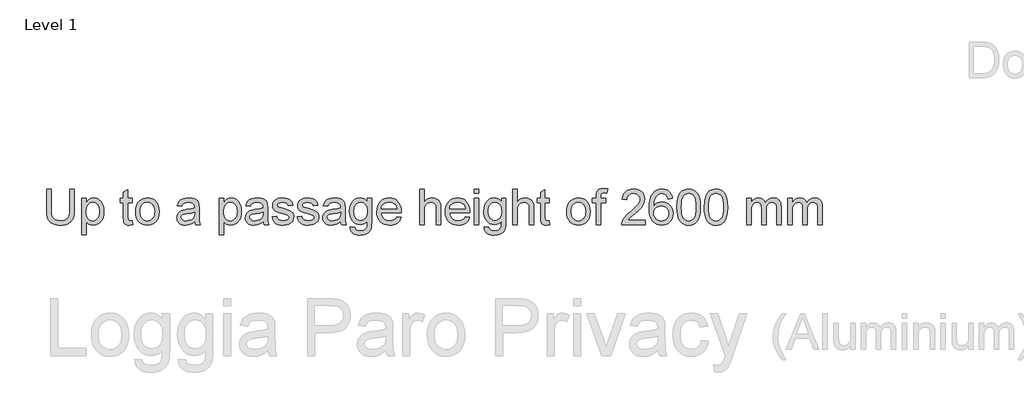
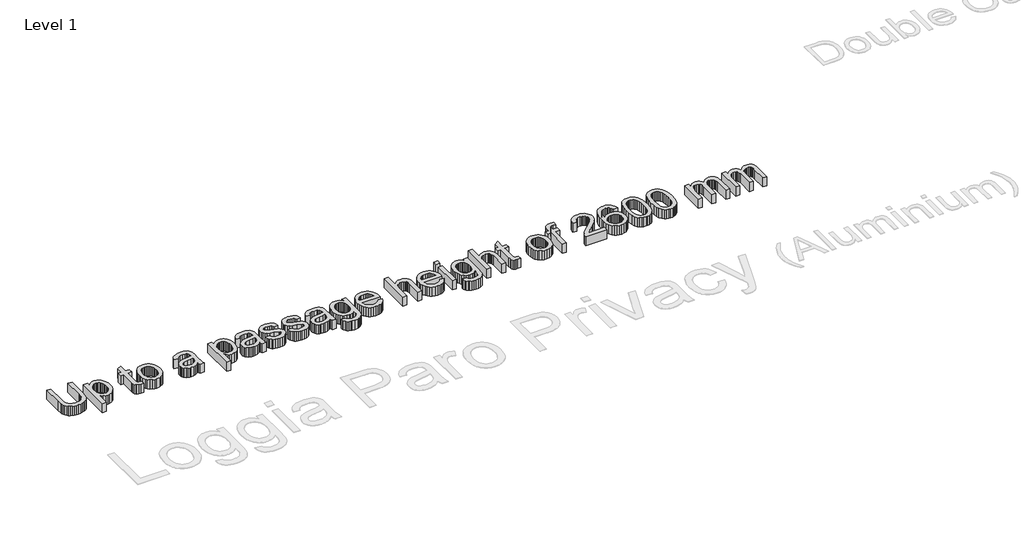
# One storey, part 12 of 47: 1 proxy.
"""IFC4 building model written with IfcOpenShell, lengths in millimetres."""

from ifc_helpers import new_model, si_unit, origin, origin_with_axes, place, context, project, spatial, polyline, outline, extrude, element, save

model = new_model("IFC4")

# Units and contexts
model_context = context("Model", 3, world=origin())
ifc_project = project(units=[si_unit("LENGTHUNIT", "METRE", prefix="MILLI")], contexts=[model_context])

# Site, building, storey
site = spatial("IfcSite", under=ifc_project)
building = spatial("IfcBuilding", under=site)
storey = spatial("IfcBuildingStorey", under=building, Name="Level 1", Elevation=0.0)

# Proxy
placement = place(None, origin())
element("IfcBuildingElementProxy", 1, Name="500mm Arial", ObjectType="500mm Arial", at=placement, inside=storey, context=model_context, shape_type="SweptSolid", body=[
    extrude(outline(polyline([(173203.9255584, -27556.4083813), (173266.7107522, -27556.4083813), (173266.7107522, -27846.1767662), (173262.4494525, -27914.0356658), (173249.6655531, -27966.2902376), (173239.4338351, -27987.4817733), (173225.7838803, -28006.6039729), (173208.7156886, -28023.6568362), (173188.2292599, -28038.6403633), (173164.3016018, -28050.8456149), (173136.9097216, -28059.5636518), (173106.0536193, -28064.7944739), (173071.7332948, -28066.5380813), (173038.2598653, -28065.020568), (173007.9824107, -28060.4680283), (172980.9009309, -28052.8804622), (172957.015426, -28042.2578696), (172936.3220637, -28028.7573668), (172918.8170121, -28012.5360701), (172904.5002712, -27993.5939794), (172893.3718408, -27971.9310948), (172885.0293501, -27946.8039881), (172879.0704282, -27917.4692311), (172874.3032907, -27846.1767662), (172874.3032907, -27556.4083813), (172937.0884846, -27556.4083813), (172937.0884846, -27843.9694742), (172940.1848247, -27900.3933752), (172949.4738451, -27939.6801066), (172966.3044464, -27966.8880458), (172992.0255292, -27987.0755703), (173025.5641044, -27999.5835581), (173065.8471829, -28003.7528874), (173100.4510831, -28001.6912154), (173129.7053659, -27995.5061994), (173153.6100314, -27985.1978393), (173172.1650795, -27970.7661352), (173186.060289, -27950.4713118), (173195.9854387, -27922.5735938), (173201.9405285, -27887.0729813), (173203.9255584, -27843.9694742), (173203.9255584, -27556.4083813)])), origin_with_axes(), (0.0, 0.0, 1.0), 150.0),
    extrude(outline(polyline([(173368.7366922, -28199.9566182), (173368.7366922, -27689.8269182), (173431.5218861, -27689.8269182), (173431.5218861, -27751.3858387), (173452.0006505, -27721.0202457), (173474.9319615, -27699.3305364), (173501.6647198, -27686.3167108), (173533.5478261, -27681.978769), (173555.444469, -27683.4962822), (173576.0075397, -27688.0488219), (173595.2370381, -27695.636388), (173613.1329644, -27706.2589807), (173629.3044437, -27719.6406882), (173643.3606016, -27735.5055993), (173665.126953, -27774.6850318), (173678.2787344, -27820.9461926), (173682.6626615, -27871.4379965), (173677.7115829, -27925.1334394), (173662.8583474, -27973.1573682), (173651.8372159, -27994.4332102), (173638.5781357, -28013.0725646), (173623.0811067, -28029.0754314), (173605.3461288, -28042.4418106), (173566.6418772, -28060.5140136), (173525.9449315, -28066.5380813), (173497.0815233, -28062.5067077), (173471.3144552, -28050.4125871), (173449.2568639, -28032.1564431), (173431.5218861, -28009.6389993), (173431.5218861, -28199.9566182), (173368.7366922, -28199.9566182)]), holes=[polyline([(173431.5218861, -27877.2014811), (173433.2195082, -27907.4597752), (173438.3123746, -27933.4874263), (173446.8004852, -27955.2844346), (173458.6838401, -27972.8507998), (173472.9890847, -27986.3704631), (173488.7428648, -27996.0273655), (173505.9451801, -28001.8215069), (173524.5960309, -28003.7528874), (173543.5151289, -28001.7525291), (173561.0316768, -27995.751454), (173577.1456746, -27985.7496623), (173591.8571223, -27971.7471538), (173604.1160234, -27953.5446593), (173612.8723813, -27930.9429092), (173618.126196, -27903.9419036), (173619.8774676, -27872.5416425), (173618.1683492, -27842.5439314), (173613.0409939, -27816.5622655), (173604.4954017, -27794.5966447), (173592.5315726, -27776.6470691), (173578.191839, -27762.6982101), (173562.5185332, -27752.7347394), (173545.5116551, -27746.756657), (173527.1712048, -27744.7639628), (173508.8882361, -27746.8831164), (173491.6859207, -27753.2405771), (173475.5642587, -27763.836345), (173460.52325, -27778.67042), (173447.8351533, -27797.5435328), (173438.7722271, -27820.2564139), (173433.3344713, -27846.8090633), (173431.5218861, -27877.2014811)])]), origin_with_axes(), (0.0, 0.0, 1.0), 150.0),
    extrude(outline(polyline([(174082.9182722, -28006.3280614), (174090.7664214, -28060.529342), (174043.8001534, -28066.5380813), (174013.6644866, -28063.9322505), (173991.1930281, -28056.1147581), (173975.3127886, -28044.0666227), (173964.9507791, -28028.7688631), (173959.2486082, -28002.4959573), (173957.3478845, -27957.5223834), (173957.3478845, -27752.612112), (173910.2589891, -27752.612112), (173910.2589891, -27689.8269182), (173957.3478845, -27689.8269182), (173957.3478845, -27600.1863387), (174020.1330784, -27563.2755119), (174020.1330784, -27689.8269182), (174082.9182722, -27689.8269182), (174082.9182722, -27752.612112), (174020.1330784, -27752.612112), (174020.1330784, -27955.6829734), (174023.4440163, -27988.056589), (174034.1739079, -27999.5222445), (174055.5723772, -28003.7528874), (174082.9182722, -28006.3280614)])), origin_with_axes(), (0.0, 0.0, 1.0), 150.0),
    extrude(outline(polyline([(174130.0071676, -27874.2584251), (174133.4024118, -27826.4874152), (174143.5881446, -27785.3229528), (174160.5643658, -27750.7650379), (174184.3310756, -27722.8136704), (174208.2587337, -27704.948401), (174234.6695952, -27692.1874943), (174263.5636603, -27684.5309503), (174294.9409288, -27681.978769), (174329.5793179, -27685.0866054), (174360.8991048, -27694.4101147), (174388.9002896, -27709.9492969), (174413.5828722, -27731.704152), (174433.7282436, -27758.9389159), (174448.1177945, -27790.9178248), (174456.7515251, -27827.6408785), (174459.6294353, -27869.1080772), (174454.540401, -27932.5370645), (174448.1791082, -27958.5723799), (174439.2732982, -27980.8215764), (174427.9341021, -28000.0395785), (174414.272651, -28016.9813108), (174398.2889447, -28031.6467733), (174379.9829833, -28044.0359659), (174339.2553808, -28060.9125524), (174294.9409288, -28066.5380813), (174259.7967019, -28063.4417411), (174228.1856751, -28054.1527208), (174200.1078482, -28038.6710201), (174175.5632213, -28016.9966392), (174155.6324478, -27989.4974601), (174141.396181, -27956.5413647), (174132.854421, -27918.128353), (174130.0071676, -27874.2584251)]), holes=[polyline([(174192.7923614, -27874.1357978), (174194.6087788, -27904.5895292), (174200.0580308, -27930.9582376), (174209.1401176, -27953.2419231), (174221.8550391, -27971.4405855), (174237.3214113, -27985.5772176), (174254.6578503, -27995.6748119), (174273.8643561, -28001.7333685), (174294.9409288, -28003.7528874), (174315.9102025, -28001.7218722), (174335.0400662, -27995.6288267), (174352.33052, -27985.4737508), (174367.7815638, -27971.2566445), (174380.4964853, -27952.8778732), (174389.578572, -27930.237802), (174395.0278241, -27903.3364312), (174396.8442414, -27872.1737605), (174395.0163278, -27842.6857193), (174389.5325868, -27817.0067896), (174380.3930185, -27795.1369714), (174367.5976228, -27777.0762647), (174352.0890975, -27762.9396326), (174334.81014, -27752.8420383), (174315.7607504, -27746.7834817), (174294.9409288, -27744.7639628), (174273.8643561, -27746.7758175), (174254.6578503, -27752.8113815), (174237.3214113, -27762.8706548), (174221.8550391, -27776.9536374), (174209.1401176, -27795.0986504), (174200.0580308, -27817.3440148), (174194.6087788, -27843.6897306), (174192.7923614, -27874.1357978)])]), origin_with_axes(), (0.0, 0.0, 1.0), 150.0),
    extrude(outline(polyline([(174961.910986, -28011.6010366), (174931.913275, -28037.3221195), (174901.0265158, -28054.1527208), (174868.5456013, -28063.4417411), (174833.7654244, -28066.5380813), (174805.8102248, -28064.6756787), (174781.2962548, -28059.0884709), (174760.2235143, -28049.7764579), (174742.5920032, -28036.7396397), (174728.669969, -28020.8057507), (174718.7256588, -28002.8025256), (174712.7590727, -27982.7299642), (174710.7702106, -27960.5880667), (174713.7745803, -27934.5604155), (174722.7876892, -27910.9239973), (174736.6905629, -27890.6904876), (174754.3642271, -27874.8715618), (174775.1342314, -27862.9153969), (174798.3261255, -27854.27017), (174852.6500335, -27844.8278655), (174916.8454416, -27834.8950516), (174961.543104, -27823.2454551), (174961.910986, -27809.2659393), (174957.5883726, -27781.245594), (174944.6205323, -27762.9128079), (174931.545393, -27754.9726882), (174915.6191683, -27749.3011741), (174875.2134625, -27744.7639628), (174837.8121263, -27747.7836609), (174811.6925047, -27756.842755), (174793.8808847, -27773.5967142), (174781.4035537, -27799.7010074), (174718.6183599, -27791.8528582), (174729.516864, -27757.5172053), (174745.7803139, -27730.5391923), (174768.9262227, -27709.9071438), (174800.4721038, -27694.6093841), (174839.0537281, -27685.1364228), (174883.3068664, -27681.978769), (174925.7512516, -27684.7685408), (174959.3971257, -27693.1378562), (174984.765655, -27705.7224861), (175002.3780055, -27721.1582015), (175014.0582588, -27740.24208), (175021.6304966, -27763.7711992), (175024.6961799, -27818.7082438), (175024.6961799, -27896.8218542), (175027.8844905, -28005.8988657), (175032.6056428, -28032.8615503), (175040.3924783, -28058.689932), (174977.6072845, -28058.689932), (174967.5518433, -28036.862267), (174961.910986, -28011.6010366)]), holes=[polyline([(174961.910986, -27886.030649), (174919.7271839, -27896.484629), (174860.62081, -27905.28314), (174806.6034704, -27915.4612086), (174792.5473125, -27922.4203097), (174782.1393177, -27932.0158984), (174775.7013828, -27943.5122107), (174773.5554045, -27956.1734827), (174778.2305715, -27974.843494), (174792.2560726, -27990.1412536), (174815.3253394, -28000.349979), (174847.1318035, -28003.7528874), (174880.8543198, -27999.9974254), (174910.6527614, -27988.7310393), (174934.8103457, -27972.1303642), (174951.6102902, -27952.3720354), (174959.0599006, -27932.0158984), (174961.543104, -27903.8116121), (174961.910986, -27886.030649)])]), origin_with_axes(), (0.0, 0.0, 1.0), 150.0),
    extrude(outline(polyline([(175307.2295522, -28199.9566182), (175307.2295522, -27689.8269182), (175370.014746, -27689.8269182), (175370.014746, -27751.3858387), (175390.4935104, -27721.0202457), (175413.4248214, -27699.3305364), (175440.1575798, -27686.3167108), (175472.040686, -27681.978769), (175493.9373289, -27683.4962822), (175514.5003996, -27688.0488219), (175533.7298981, -27695.636388), (175551.6258243, -27706.2589807), (175567.7973037, -27719.6406882), (175581.8534616, -27735.5055993), (175603.6198129, -27774.6850318), (175616.7715943, -27820.9461926), (175621.1555214, -27871.4379965), (175616.2044429, -27925.1334394), (175601.3512073, -27973.1573682), (175590.3300759, -27994.4332102), (175577.0709956, -28013.0725646), (175561.5739666, -28029.0754314), (175543.8389887, -28042.4418106), (175505.1347372, -28060.5140136), (175464.4377914, -28066.5380813), (175435.5743832, -28062.5067077), (175409.8073152, -28050.4125871), (175387.7497239, -28032.1564431), (175370.014746, -28009.6389993), (175370.014746, -28199.9566182), (175307.2295522, -28199.9566182)]), holes=[polyline([(175370.014746, -27877.2014811), (175371.7123681, -27907.4597752), (175376.8052345, -27933.4874263), (175385.2933451, -27955.2844346), (175397.1767, -27972.8507998), (175411.4819446, -27986.3704631), (175427.2357247, -27996.0273655), (175444.4380401, -28001.8215069), (175463.0888908, -28003.7528874), (175482.0079888, -28001.7525291), (175499.5245367, -27995.751454), (175515.6385345, -27985.7496623), (175530.3499822, -27971.7471538), (175542.6088833, -27953.5446593), (175551.3652412, -27930.9429092), (175556.619056, -27903.9419036), (175558.3703275, -27872.5416425), (175556.6612091, -27842.5439314), (175551.5338538, -27816.5622655), (175542.9882616, -27794.5966447), (175531.0244326, -27776.6470691), (175516.684699, -27762.6982101), (175501.0113931, -27752.7347394), (175484.0045151, -27746.756657), (175465.6640648, -27744.7639628), (175447.381096, -27746.8831164), (175430.1787806, -27753.2405771), (175414.0571186, -27763.836345), (175399.01611, -27778.67042), (175386.3280132, -27797.5435328), (175377.265087, -27820.2564139), (175371.8273313, -27846.8090633), (175370.014746, -27877.2014811)])]), origin_with_axes(), (0.0, 0.0, 1.0), 150.0),
    extrude(outline(polyline([(175927.2333414, -28011.6010366), (175897.2356303, -28037.3221195), (175866.3488712, -28054.1527208), (175833.8679567, -28063.4417411), (175799.0877797, -28066.5380813), (175771.1325802, -28064.6756787), (175746.6186102, -28059.0884709), (175725.5458696, -28049.7764579), (175707.9143586, -28036.7396397), (175693.9923243, -28020.8057507), (175684.0480141, -28002.8025256), (175678.081428, -27982.7299642), (175676.092566, -27960.5880667), (175679.0969356, -27934.5604155), (175688.1100445, -27910.9239973), (175702.0129182, -27890.6904876), (175719.6865824, -27874.8715618), (175740.4565867, -27862.9153969), (175763.6484808, -27854.27017), (175817.9723888, -27844.8278655), (175882.167797, -27834.8950516), (175926.8654594, -27823.2454551), (175927.2333414, -27809.2659393), (175922.9107279, -27781.245594), (175909.9428876, -27762.9128079), (175896.8677483, -27754.9726882), (175880.9415236, -27749.3011741), (175840.5358178, -27744.7639628), (175803.1344817, -27747.7836609), (175777.01486, -27756.842755), (175759.2032401, -27773.5967142), (175746.7259091, -27799.7010074), (175683.9407152, -27791.8528582), (175694.8392193, -27757.5172053), (175711.1026692, -27730.5391923), (175734.2485781, -27709.9071438), (175765.7944592, -27694.6093841), (175804.3760834, -27685.1364228), (175848.6292217, -27681.978769), (175891.0736069, -27684.7685408), (175924.7194811, -27693.1378562), (175950.0880103, -27705.7224861), (175967.7003608, -27721.1582015), (175979.3806142, -27740.24208), (175986.9528519, -27763.7711992), (175990.0185352, -27818.7082438), (175990.0185352, -27896.8218542), (175993.2068458, -28005.8988657), (175997.9279981, -28032.8615503), (176005.7148337, -28058.689932), (175942.9296398, -28058.689932), (175932.8741986, -28036.862267), (175927.2333414, -28011.6010366)]), holes=[polyline([(175927.2333414, -27886.030649), (175885.0495393, -27896.484629), (175825.9431654, -27905.28314), (175771.9258257, -27915.4612086), (175757.8696678, -27922.4203097), (175747.4616731, -27932.0158984), (175741.0237381, -27943.5122107), (175738.8777598, -27956.1734827), (175743.5529269, -27974.843494), (175757.5784279, -27990.1412536), (175780.6476947, -28000.349979), (175812.4541589, -28003.7528874), (175846.1766751, -27999.9974254), (175875.9751167, -27988.7310393), (175900.1327011, -27972.1303642), (175916.9326455, -27952.3720354), (175924.3822559, -27932.0158984), (175926.8654594, -27903.8116121), (175927.2333414, -27886.030649)])]), origin_with_axes(), (0.0, 0.0, 1.0), 150.0),
    extrude(outline(polyline([(176052.8037291, -27948.8158428), (176115.5889229, -27940.9676936), (176125.4910799, -27967.8230792), (176144.6516005, -27987.5660796), (176173.193112, -27999.7061855), (176211.2382416, -28003.7528874), (176248.8235188, -28000.0434106), (176275.2497088, -27988.9149803), (176290.8846936, -27972.7894862), (176296.0963552, -27954.0888181), (176290.8540368, -27938.0859513), (176275.1270815, -27925.8845318), (176210.5024777, -27907.9809413), (176153.2048569, -27891.4109231), (176115.9568049, -27877.2627947), (176092.0291468, -27861.8270794), (176074.6927078, -27841.3943002), (176064.1620857, -27817.2673727), (176060.6518783, -27790.7492122), (176063.4723069, -27766.4230153), (176071.9335928, -27743.9668852), (176085.2693151, -27724.26987), (176102.7130531, -27708.221018), (176120.0494921, -27698.1195915), (176142.6282495, -27689.6429772), (176168.7325428, -27683.894821), (176196.6455892, -27681.978769), (176237.5111475, -27685.0597807), (176273.0424168, -27694.3028158), (176301.6145851, -27708.8034978), (176321.6028402, -27727.65745), (176334.846592, -27752.2595585), (176343.1852506, -27784.004709), (176280.4000567, -27791.8528582), (176272.4752654, -27772.0945294), (176256.7942954, -27757.210637), (176233.2038624, -27747.8756314), (176201.5506824, -27744.7639628), (176165.4982469, -27747.7376756), (176141.4632899, -27756.658814), (176127.9436266, -27769.5346838), (176123.4370721, -27784.372591), (176125.3071389, -27794.0294933), (176130.9173394, -27802.6440634), (176140.5129281, -27810.3389285), (176154.3391597, -27816.5009519), (176208.417813, -27829.867331), (176300.5722528, -27859.420518), (176324.9137782, -27873.553318), (176343.3691916, -27892.8977795), (176355.0034597, -27917.5152164), (176358.881549, -27947.4669422), (176354.3290094, -27978.4303434), (176340.6713903, -28007.5543347), (176318.429858, -28032.554982), (176288.1255786, -28051.1483511), (176251.5213201, -28062.6906487), (176210.3798503, -28066.5380813), (176176.5883562, -28064.6833429), (176147.0734903, -28059.1191277), (176121.8352526, -28049.8454357), (176100.8736431, -28036.862267), (176083.7518019, -28020.2309351), (176070.0328692, -28000.0127538), (176059.7168449, -27976.207723), (176052.8037291, -27948.8158428)])), origin_with_axes(), (0.0, 0.0, 1.0), 150.0),
    extrude(outline(polyline([(176405.9704444, -27948.8158428), (176468.7556383, -27940.9676936), (176478.6577953, -27967.8230792), (176497.8183159, -27987.5660796), (176526.3598273, -27999.7061855), (176564.404957, -28003.7528874), (176601.9902342, -28000.0434106), (176628.4164242, -27988.9149803), (176644.051409, -27972.7894862), (176649.2630706, -27954.0888181), (176644.0207521, -27938.0859513), (176628.2937968, -27925.8845318), (176563.669193, -27907.9809413), (176506.3715723, -27891.4109231), (176469.1235203, -27877.2627947), (176445.1958622, -27861.8270794), (176427.8594231, -27841.3943002), (176417.328801, -27817.2673727), (176413.8185937, -27790.7492122), (176416.6390223, -27766.4230153), (176425.1003082, -27743.9668852), (176438.4360305, -27724.26987), (176455.8797684, -27708.221018), (176473.2162075, -27698.1195915), (176495.7949649, -27689.6429772), (176521.8992582, -27683.894821), (176549.8123045, -27681.978769), (176590.6778628, -27685.0597807), (176626.2091322, -27694.3028158), (176654.7813005, -27708.8034978), (176674.7695556, -27727.65745), (176688.0133074, -27752.2595585), (176696.351966, -27784.004709), (176633.5667721, -27791.8528582), (176625.6419808, -27772.0945294), (176609.9610107, -27757.210637), (176586.3705778, -27747.8756314), (176554.7173978, -27744.7639628), (176518.6649623, -27747.7376756), (176494.6300053, -27756.658814), (176481.1103419, -27769.5346838), (176476.6037875, -27784.372591), (176478.4738543, -27794.0294933), (176484.0840547, -27802.6440634), (176493.6796434, -27810.3389285), (176507.5058751, -27816.5009519), (176561.5845284, -27829.867331), (176653.7389682, -27859.420518), (176678.0804935, -27873.553318), (176696.5359069, -27892.8977795), (176708.170175, -27917.5152164), (176712.0482644, -27947.4669422), (176707.4957247, -27978.4303434), (176693.8381056, -28007.5543347), (176671.5965734, -28032.554982), (176641.292294, -28051.1483511), (176604.6880355, -28062.6906487), (176563.5465657, -28066.5380813), (176529.7550716, -28064.6833429), (176500.2402057, -28059.1191277), (176475.001968, -28049.8454357), (176454.0403585, -28036.862267), (176436.9185173, -28020.2309351), (176423.1995845, -28000.0127538), (176412.8835602, -27976.207723), (176405.9704444, -27948.8158428)])), origin_with_axes(), (0.0, 0.0, 1.0), 150.0),
    extrude(outline(polyline([(177018.1260844, -28011.6010366), (176988.1283734, -28037.3221195), (176957.2416142, -28054.1527208), (176924.7606997, -28063.4417411), (176889.9805227, -28066.5380813), (176862.0253232, -28064.6756787), (176837.5113532, -28059.0884709), (176816.4386126, -28049.7764579), (176798.8071016, -28036.7396397), (176784.8850674, -28020.8057507), (176774.9407572, -28002.8025256), (176768.9741711, -27982.7299642), (176766.985309, -27960.5880667), (176769.9896787, -27934.5604155), (176779.0027875, -27910.9239973), (176792.9056613, -27890.6904876), (176810.5793255, -27874.8715618), (176831.3493298, -27862.9153969), (176854.5412239, -27854.27017), (176908.8651318, -27844.8278655), (176973.06054, -27834.8950516), (177017.7582024, -27823.2454551), (177018.1260844, -27809.2659393), (177013.803471, -27781.245594), (177000.8356306, -27762.9128079), (176987.7604914, -27754.9726882), (176971.8342667, -27749.3011741), (176931.4285609, -27744.7639628), (176894.0272247, -27747.7836609), (176867.907603, -27756.842755), (176850.0959831, -27773.5967142), (176837.6186521, -27799.7010074), (176774.8334583, -27791.8528582), (176785.7319624, -27757.5172053), (176801.9954122, -27730.5391923), (176825.1413211, -27709.9071438), (176856.6872022, -27694.6093841), (176895.2688264, -27685.1364228), (176939.5219648, -27681.978769), (176981.96635, -27684.7685408), (177015.6122241, -27693.1378562), (177040.9807533, -27705.7224861), (177058.5931039, -27721.1582015), (177070.2733572, -27740.24208), (177077.8455949, -27763.7711992), (177080.9112782, -27818.7082438), (177080.9112782, -27896.8218542), (177084.0995889, -28005.8988657), (177088.8207411, -28032.8615503), (177096.6075767, -28058.689932), (177033.8223829, -28058.689932), (177023.7669417, -28036.862267), (177018.1260844, -28011.6010366)]), holes=[polyline([(177018.1260844, -27886.030649), (176975.9422823, -27896.484629), (176916.8359084, -27905.28314), (176862.8185688, -27915.4612086), (176848.7624109, -27922.4203097), (176838.3544161, -27932.0158984), (176831.9164812, -27943.5122107), (176829.7705029, -27956.1734827), (176834.4456699, -27974.843494), (176848.471171, -27990.1412536), (176871.5404377, -28000.349979), (176903.3469019, -28003.7528874), (176937.0694181, -27999.9974254), (176966.8678597, -27988.7310393), (176991.0254441, -27972.1303642), (177007.8253885, -27952.3720354), (177015.2749989, -27932.0158984), (177017.7582024, -27903.8116121), (177018.1260844, -27886.030649)])]), origin_with_axes(), (0.0, 0.0, 1.0), 150.0),
    extrude(outline(polyline([(177151.5446213, -28090.082529), (177214.3298152, -28097.9306782), (177221.2582594, -28117.5510513), (177234.6859522, -28131.0400577), (177261.0814854, -28141.5246946), (177295.6317361, -28145.0195736), (177332.4812493, -28141.0648421), (177359.8884579, -28129.2006478), (177378.8956943, -28110.1934114), (177390.5452908, -28084.8095537), (177393.9481993, -28057.8008839), (177394.8372475, -28011.6010366), (177373.9446158, -28032.2024284), (177350.6300944, -28046.9177082), (177324.8936831, -28055.7468761), (177296.7353821, -28058.689932), (177262.3115908, -28055.264031), (177232.0034793, -28044.9863277), (177205.8110477, -28027.8568223), (177183.7342959, -28003.8755147), (177166.217748, -27975.104077), (177153.705928, -27943.6041812), (177146.1988361, -27909.3758272), (177143.6964721, -27872.4190151), (177148.1876981, -27821.7279419), (177161.6613762, -27775.1142274), (177183.6423254, -27735.6128982), (177197.6448338, -27719.667513), (177213.6553648, -27706.2589807), (177231.4171674, -27695.636388), (177250.6734906, -27688.0488219), (177271.4243344, -27683.4962822), (177293.6696988, -27681.978769), (177323.0312805, -27685.4123343), (177349.6797326, -27695.7130301), (177373.6150549, -27712.8808566), (177394.8372475, -27736.9158136), (177394.8372475, -27689.8269182), (177457.6224413, -27689.8269182), (177457.6224413, -28008.2900987), (177453.3304847, -28081.8205125), (177447.9655389, -28109.1702396), (177440.4546149, -28130.2429801), (177418.2743962, -28162.3560126), (177386.0693932, -28186.958121), (177366.3838744, -28196.0785288), (177344.544713, -28202.5931058), (177294.4054628, -28207.8047674), (177263.645163, -28205.9691895), (177235.9888676, -28200.4624559), (177211.4365766, -28191.2845666), (177189.9882898, -28178.4355215), (177172.6633471, -28161.8999922), (177160.4810881, -28141.6626504), (177153.4415129, -28117.7234959), (177151.5446213, -28090.082529)]), holes=[polyline([(177206.4816659, -27868.1270585), (177208.1562954, -27899.170934), (177213.1801839, -27925.7159192), (177221.5533314, -27947.7620142), (177233.2757379, -27965.3092189), (177247.5273331, -27978.6947586), (177263.4880468, -27988.2558584), (177281.1578788, -27993.9925182), (177300.5368294, -27995.9047382), (177319.7241747, -27994.0040145), (177337.3097005, -27988.3018436), (177353.2934067, -27978.7982254), (177367.6752935, -27965.4931599), (177379.5586483, -27948.1183999), (177388.046759, -27926.4056979), (177393.1396253, -27900.3550541), (177394.8372475, -27869.9664685), (177393.089808, -27840.8463093), (177387.8474896, -27815.5352616), (177379.1102922, -27794.0333254), (177366.8782158, -27776.3405007), (177352.1859286, -27762.5257654), (177336.0680987, -27752.6580973), (177318.5247261, -27746.7374964), (177299.5558107, -27744.7639628), (177280.90496, -27746.7068396), (177263.7026446, -27752.53547), (177247.9488646, -27762.2498539), (177233.6436199, -27775.8499914), (177221.760265, -27793.2745688), (177213.2721544, -27814.4622725), (177208.1792881, -27839.4131024), (177206.4816659, -27868.1270585)])]), origin_with_axes(), (0.0, 0.0, 1.0), 150.0),
    extrude(outline(polyline([(177810.0533927, -27948.8158428), (177871.6123132, -27956.663992), (177862.1738408, -27981.3197499), (177849.4320946, -28003.0477803), (177833.3870746, -28021.8480831), (177814.038781, -28037.7206583), (177791.5864829, -28050.3282808), (177766.22945, -28059.3337255), (177737.9676821, -28064.7369923), (177706.8011794, -28066.5380813), (177667.8440089, -28063.4302448), (177633.1328098, -28054.1067355), (177602.6675821, -28038.5675533), (177576.4483257, -28016.8126982), (177555.3640889, -27989.4476428), (177540.3039197, -27957.0778593), (177531.2678182, -27919.7033478), (177528.2557844, -27877.3241084), (177531.298475, -27833.5078299), (177540.4265471, -27794.8878847), (177555.6400004, -27761.4642726), (177576.9388351, -27733.2369936), (177603.0891136, -27710.8115203), (177632.8568983, -27694.7933251), (177666.2421894, -27685.182408), (177703.2449867, -27681.978769), (177739.0559997, -27685.1747438), (177771.4411116, -27694.7626683), (177800.4003224, -27710.7425425), (177825.9336321, -27733.1143663), (177846.7764464, -27761.2803316), (177861.6641709, -27794.64263), (177870.5968056, -27833.2012616), (177873.5743505, -27876.9562264), (177873.2064685, -27893.8787982), (177591.0409782, -27893.8787982), (177594.677645, -27918.9330949), (177601.9088255, -27940.8757231), (177612.7345196, -27959.7066827), (177627.1547274, -27975.4259738), (177644.3723712, -27987.8189985), (177663.5903734, -27996.671159), (177684.8087338, -28001.9824553), (177708.0274527, -28003.7528874), (177741.4434006, -28000.4726063), (177769.5863732, -27990.6317629), (177792.4563706, -27973.6172206), (177810.0533927, -27948.8158428)]), holes=[polyline([(177591.0409782, -27831.0936043), (177810.7891567, -27831.0936043), (177802.297214, -27797.9229111), (177785.6505537, -27774.1945224), (177768.5287125, -27761.3186526), (177749.0462951, -27752.1216027), (177727.2033017, -27746.6033728), (177702.9997321, -27744.7639628), (177660.6779742, -27750.6347463), (177642.2647139, -27757.9732257), (177625.6831994, -27768.2470968), (177611.7688294, -27780.9811788), (177601.3570025, -27795.7002907), (177594.4477188, -27812.4044326), (177591.0409782, -27831.0936043)])]), origin_with_axes(), (0.0, 0.0, 1.0), 150.0),
    extrude(outline(polyline([(178132.5632751, -28058.689932), (178132.5632751, -27556.4083813), (178195.348469, -27556.4083813), (178195.348469, -27741.0851429), (178218.4100715, -27715.2261043), (178244.3074312, -27696.7553624), (178273.0405478, -27685.6729173), (178304.6094215, -27681.978769), (178342.5319239, -27686.0101425), (178375.1201373, -27698.1042631), (178400.7799064, -27717.3107689), (178417.917076, -27742.6792982), (178427.5739784, -27777.5361172), (178430.7929459, -27825.2074924), (178430.7929459, -28058.689932), (178368.007752, -28058.689932), (178368.007752, -27831.706741), (178363.0106883, -27792.4046812), (178356.7643586, -27777.3981615), (178348.019497, -27765.4879819), (178336.9830371, -27756.4212235), (178323.8619126, -27749.9449676), (178291.3656697, -27744.7639628), (178264.8321808, -27748.2588418), (178239.923504, -27758.7434786), (178219.2914555, -27775.2061979), (178205.5878512, -27796.6353241), (178197.9083145, -27825.1155219), (178195.348469, -27862.7314559), (178195.348469, -28058.689932), (178132.5632751, -28058.689932)])), origin_with_axes(), (0.0, 0.0, 1.0), 150.0),
    extrude(outline(polyline([(178775.375748, -27948.8158428), (178836.9346686, -27956.663992), (178827.4961961, -27981.3197499), (178814.7544499, -28003.0477803), (178798.70943, -28021.8480831), (178779.3611363, -28037.7206583), (178756.9088383, -28050.3282808), (178731.5518054, -28059.3337255), (178703.2900375, -28064.7369923), (178672.1235347, -28066.5380813), (178633.1663643, -28063.4302448), (178598.4551652, -28054.1067355), (178567.9899375, -28038.5675533), (178541.7706811, -28016.8126982), (178520.6864442, -27989.4476428), (178505.6262751, -27957.0778593), (178496.5901736, -27919.7033478), (178493.5781397, -27877.3241084), (178496.6208304, -27833.5078299), (178505.7489024, -27794.8878847), (178520.9623557, -27761.4642726), (178542.2611904, -27733.2369936), (178568.4114689, -27710.8115203), (178598.1792537, -27694.7933251), (178631.5645447, -27685.182408), (178668.5673421, -27681.978769), (178704.3783551, -27685.1747438), (178736.7634669, -27694.7626683), (178765.7226778, -27710.7425425), (178791.2559875, -27733.1143663), (178812.0988018, -27761.2803316), (178826.9865263, -27794.64263), (178835.919161, -27833.2012616), (178838.8967059, -27876.9562264), (178838.5288239, -27893.8787982), (178556.3633336, -27893.8787982), (178560.0000004, -27918.9330949), (178567.2311808, -27940.8757231), (178578.056875, -27959.7066827), (178592.4770828, -27975.4259738), (178609.6947266, -27987.8189985), (178628.9127287, -27996.671159), (178650.1310892, -28001.9824553), (178673.349808, -28003.7528874), (178706.7657559, -28000.4726063), (178734.9087286, -27990.6317629), (178757.7787259, -27973.6172206), (178775.375748, -27948.8158428)]), holes=[polyline([(178556.3633336, -27831.0936043), (178776.111512, -27831.0936043), (178767.6195693, -27797.9229111), (178750.972909, -27774.1945224), (178733.8510678, -27761.3186526), (178714.3686505, -27752.1216027), (178692.525657, -27746.6033728), (178668.3220874, -27744.7639628), (178626.0003296, -27750.6347463), (178607.5870693, -27757.9732257), (178591.0055548, -27768.2470968), (178577.0911847, -27780.9811788), (178566.6793578, -27795.7002907), (178559.7700741, -27812.4044326), (178556.3633336, -27831.0936043)])]), origin_with_axes(), (0.0, 0.0, 1.0), 150.0),
    extrude(outline(polyline([(178901.6818997, -27619.1935751), (178901.6818997, -27556.4083813), (178964.4670935, -27556.4083813), (178964.4670935, -27619.1935751), (178901.6818997, -27619.1935751)])), origin_with_axes(), (0.0, 0.0, 1.0), 150.0),
    extrude(outline(polyline([(178901.6818997, -28058.689932), (178901.6818997, -27689.8269182), (178964.4670935, -27689.8269182), (178964.4670935, -28058.689932), (178901.6818997, -28058.689932)])), origin_with_axes(), (0.0, 0.0, 1.0), 150.0),
    extrude(outline(polyline([(179042.9485859, -28090.082529), (179105.7337797, -28097.9306782), (179112.6622239, -28117.5510513), (179126.0899168, -28131.0400577), (179152.4854499, -28141.5246946), (179187.0357006, -28145.0195736), (179223.8852138, -28141.0648421), (179251.2924225, -28129.2006478), (179270.2996589, -28110.1934114), (179281.9492554, -28084.8095537), (179285.3521638, -28057.8008839), (179286.241212, -28011.6010366), (179265.3485804, -28032.2024284), (179242.0340589, -28046.9177082), (179216.2976477, -28055.7468761), (179188.1393466, -28058.689932), (179153.7155553, -28055.264031), (179123.4074439, -28044.9863277), (179097.2150122, -28027.8568223), (179075.1382604, -28003.8755147), (179057.6217125, -27975.104077), (179045.1098926, -27943.6041812), (179037.6028006, -27909.3758272), (179035.1004366, -27872.4190151), (179039.5916626, -27821.7279419), (179053.0653407, -27775.1142274), (179075.0462899, -27735.6128982), (179089.0487984, -27719.667513), (179105.0593294, -27706.2589807), (179122.8211319, -27695.636388), (179142.0774551, -27688.0488219), (179162.8282989, -27683.4962822), (179185.0736633, -27681.978769), (179214.4352451, -27685.4123343), (179241.0836971, -27695.7130301), (179265.0190194, -27712.8808566), (179286.241212, -27736.9158136), (179286.241212, -27689.8269182), (179349.0264058, -27689.8269182), (179349.0264058, -28008.2900987), (179344.7344492, -28081.8205125), (179339.3695035, -28109.1702396), (179331.8585794, -28130.2429801), (179309.6783608, -28162.3560126), (179277.4733578, -28186.958121), (179257.7878389, -28196.0785288), (179235.9486776, -28202.5931058), (179185.8094273, -28207.8047674), (179155.0491276, -28205.9691895), (179127.3928322, -28200.4624559), (179102.8405411, -28191.2845666), (179081.3922543, -28178.4355215), (179064.0673116, -28161.8999922), (179051.8850527, -28141.6626504), (179044.8454774, -28117.7234959), (179042.9485859, -28090.082529)]), holes=[polyline([(179097.8856305, -27868.1270585), (179099.56026, -27899.170934), (179104.5841485, -27925.7159192), (179112.957296, -27947.7620142), (179124.6797024, -27965.3092189), (179138.9312977, -27978.6947586), (179154.8920113, -27988.2558584), (179172.5618434, -27993.9925182), (179191.9407939, -27995.9047382), (179211.1281392, -27994.0040145), (179228.713665, -27988.3018436), (179244.6973713, -27978.7982254), (179259.079258, -27965.4931599), (179270.9626129, -27948.1183999), (179279.4507235, -27926.4056979), (179284.5435899, -27900.3550541), (179286.241212, -27869.9664685), (179284.4937725, -27840.8463093), (179279.2514541, -27815.5352616), (179270.5142567, -27794.0333254), (179258.2821804, -27776.3405007), (179243.5898932, -27762.5257654), (179227.4720633, -27752.6580973), (179209.9286906, -27746.7374964), (179190.9597752, -27744.7639628), (179172.3089245, -27746.7068396), (179155.1066091, -27752.53547), (179139.3528291, -27762.2498539), (179125.0475844, -27775.8499914), (179113.1642296, -27793.2745688), (179104.676119, -27814.4622725), (179099.5832526, -27839.4131024), (179097.8856305, -27868.1270585)])]), origin_with_axes(), (0.0, 0.0, 1.0), 150.0),
    extrude(outline(polyline([(179443.2041966, -28058.689932), (179443.2041966, -27556.4083813), (179505.9893904, -27556.4083813), (179505.9893904, -27741.0851429), (179529.050993, -27715.2261043), (179554.9483526, -27696.7553624), (179583.6814693, -27685.6729173), (179615.250343, -27681.978769), (179653.1728454, -27686.0101425), (179685.7610588, -27698.1042631), (179711.4208279, -27717.3107689), (179728.5579975, -27742.6792982), (179738.2148999, -27777.5361172), (179741.4338674, -27825.2074924), (179741.4338674, -28058.689932), (179678.6486735, -28058.689932), (179678.6486735, -27831.706741), (179673.6516097, -27792.4046812), (179667.40528, -27777.3981615), (179658.6604184, -27765.4879819), (179647.6239586, -27756.4212235), (179634.5028341, -27749.9449676), (179602.0065912, -27744.7639628), (179575.4731023, -27748.2588418), (179550.5644255, -27758.7434786), (179529.932377, -27775.2061979), (179516.2287726, -27796.6353241), (179508.549236, -27825.1155219), (179505.9893904, -27862.7314559), (179505.9893904, -28058.689932), (179443.2041966, -28058.689932)])), origin_with_axes(), (0.0, 0.0, 1.0), 150.0),
    extrude(outline(polyline([(179961.1820458, -28006.3280614), (179969.030195, -28060.529342), (179922.063927, -28066.5380813), (179891.9282602, -28063.9322505), (179869.4568017, -28056.1147581), (179853.5765622, -28044.0666227), (179843.2145527, -28028.7688631), (179837.5123818, -28002.4959573), (179835.6116581, -27957.5223834), (179835.6116581, -27752.612112), (179788.5227627, -27752.612112), (179788.5227627, -27689.8269182), (179835.6116581, -27689.8269182), (179835.6116581, -27600.1863387), (179898.396852, -27563.2755119), (179898.396852, -27689.8269182), (179961.1820458, -27689.8269182), (179961.1820458, -27752.612112), (179898.396852, -27752.612112), (179898.396852, -27955.6829734), (179901.7077899, -27988.056589), (179912.4376815, -27999.5222445), (179933.8361508, -28003.7528874), (179961.1820458, -28006.3280614)])), origin_with_axes(), (0.0, 0.0, 1.0), 150.0),
    extrude(outline(polyline([(180204.474672, -27874.2584251), (180207.8699162, -27826.4874152), (180218.0556489, -27785.3229528), (180235.0318702, -27750.7650379), (180258.7985799, -27722.8136704), (180282.726238, -27704.948401), (180309.1370996, -27692.1874943), (180338.0311646, -27684.5309503), (180369.4084331, -27681.978769), (180404.0468222, -27685.0866054), (180435.3666092, -27694.4101147), (180463.367794, -27709.9492969), (180488.0503766, -27731.704152), (180508.1957479, -27758.9389159), (180522.5852989, -27790.9178248), (180531.2190294, -27827.6408785), (180534.0969396, -27869.1080772), (180529.0079054, -27932.5370645), (180522.6466125, -27958.5723799), (180513.7408026, -27980.8215764), (180502.4016065, -28000.0395785), (180488.7401553, -28016.9813108), (180472.756449, -28031.6467733), (180454.4504877, -28044.0359659), (180413.7228851, -28060.9125524), (180369.4084331, -28066.5380813), (180334.2642063, -28063.4417411), (180302.6531794, -28054.1527208), (180274.5753526, -28038.6710201), (180250.0307257, -28016.9966392), (180230.0999522, -27989.4974601), (180215.8636854, -27956.5413647), (180207.3219253, -27918.128353), (180204.474672, -27874.2584251)]), holes=[polyline([(180267.2598658, -27874.1357978), (180269.0762832, -27904.5895292), (180274.5255352, -27930.9582376), (180283.607622, -27953.2419231), (180296.3225434, -27971.4405855), (180311.7889156, -27985.5772176), (180329.1253547, -27995.6748119), (180348.3318605, -28001.7333685), (180369.4084331, -28003.7528874), (180390.3777069, -28001.7218722), (180409.5075706, -27995.6288267), (180426.7980244, -27985.4737508), (180442.2490682, -27971.2566445), (180454.9639896, -27952.8778732), (180464.0460764, -27930.237802), (180469.4953284, -27903.3364312), (180471.3117458, -27872.1737605), (180469.4838321, -27842.6857193), (180464.0000911, -27817.0067896), (180454.8605228, -27795.1369714), (180442.0651272, -27777.0762647), (180426.5566018, -27762.9396326), (180409.2776444, -27752.8420383), (180390.2282548, -27746.7834817), (180369.4084331, -27744.7639628), (180348.3318605, -27746.7758175), (180329.1253547, -27752.8113815), (180311.7889156, -27762.8706548), (180296.3225434, -27776.9536374), (180283.607622, -27795.0986504), (180274.5255352, -27817.3440148), (180269.0762832, -27843.6897306), (180267.2598658, -27874.1357978)])]), origin_with_axes(), (0.0, 0.0, 1.0), 150.0),
    extrude(outline(polyline([(180620.4265812, -28058.689932), (180620.4265812, -27752.612112), (180565.4895366, -27752.612112), (180565.4895366, -27689.8269182), (180620.4265812, -27689.8269182), (180620.4265812, -27652.6708367), (180622.0820501, -27621.9220333), (180627.0484571, -27600.308966), (180639.6790723, -27579.4316628), (180659.176818, -27562.9076299), (180686.4613993, -27552.1470815), (180722.4525212, -27548.5602321), (180779.7194851, -27555.4273626), (180770.5224352, -27614.2884819), (180734.3473723, -27611.3454259), (180710.4810279, -27613.9512567), (180694.8000579, -27621.7687491), (180686.1088457, -27636.6986267), (180683.211775, -27660.6416132), (180683.211775, -27689.8269182), (180753.8451181, -27689.8269182), (180753.8451181, -27752.612112), (180683.211775, -27752.612112), (180683.211775, -28058.689932), (180620.4265812, -28058.689932)])), origin_with_axes(), (0.0, 0.0, 1.0), 150.0),
    extrude(outline(polyline([(181311.0637134, -27995.9047382), (181311.0637134, -28058.689932), (180981.4414458, -28058.689932), (180982.8210033, -28036.5863555), (180988.185949, -28015.4024839), (181003.6676496, -27981.5726688), (181026.3230492, -27948.7545291), (181059.0952036, -27914.4035478), (181104.9271688, -27875.9752078), (181172.6787696, -27815.7958447), (181213.3297301, -27771.3740938), (181233.6552103, -27735.3216583), (181238.7365804, -27717.6633225), (181240.4303704, -27700.2502414), (181238.832383, -27683.8679963), (181234.0384207, -27668.8116592), (181226.0484836, -27655.0812302), (181214.8625717, -27642.6767092), (181201.1014858, -27632.402838), (181185.3860268, -27625.0643586), (181167.7161948, -27620.661271), (181148.0919896, -27619.1935751), (181108.9278855, -27624.9264029), (181092.6222825, -27632.0924376), (181078.5009788, -27642.1248862), (181067.0774765, -27654.6865235), (181058.8652773, -27669.4401243), (181053.8643815, -27686.3856887), (181052.0747888, -27705.5232167), (180989.289595, -27697.6750674), (180994.6890297, -27665.2631308), (181004.5107126, -27636.9438814), (181018.7546436, -27612.7173192), (181037.4208227, -27592.5834441), (181060.0800543, -27576.7568541), (181086.3031428, -27565.452147), (181116.0900881, -27558.6693227), (181149.4408902, -27556.4083813), (181183.0905965, -27558.9222416), (181213.0384901, -27566.4638225), (181239.2845712, -27579.033124), (181261.8288398, -27596.6301461), (181279.9355317, -27617.9519734), (181292.8688831, -27641.6956905), (181300.6288939, -27667.8612974), (181303.2155642, -27696.4487941), (181300.4257924, -27726.477162), (181292.056477, -27755.9843637), (181277.2032415, -27785.9974031), (181254.9617092, -27817.5432842), (181219.5070819, -27855.2052034), (181165.0145614, -27903.5663574), (181092.787063, -27963.9603183), (181064.4601493, -27995.9047382), (181311.0637134, -27995.9047382)])), origin_with_axes(), (0.0, 0.0, 1.0), 150.0),
    extrude(outline(polyline([(181695.6230257, -27689.8269182), (181632.8378319, -27697.6750674), (181622.721077, -27666.558382), (181609.0481295, -27645.3131968), (181595.5514588, -27633.8858623), (181580.5679317, -27625.7234805), (181564.0975483, -27620.8260515), (181546.1403084, -27619.1935751), (181516.9550034, -27622.9950224), (181489.4864811, -27634.3993643), (181465.8960482, -27658.4189929), (181446.6282287, -27691.4823872), (181439.0981441, -27712.5704561), (181433.6144031, -27738.2493858), (181428.7859519, -27803.3798274), (181453.9705402, -27773.995253), (181484.1521922, -27753.2865624), (181517.6447822, -27741.0085008), (181552.7621843, -27736.9158136), (181582.9285079, -27739.7132496), (181610.7649122, -27748.1055576), (181636.2713972, -27762.0927376), (181659.4479629, -27781.6747897), (181678.7081182, -27805.6867541), (181692.4653719, -27832.9636712), (181700.7197242, -27863.505541), (181703.471175, -27897.3123635), (181698.2901702, -27942.270609), (181682.7471559, -27983.9485733), (181658.1297191, -28019.2959017), (181625.7254467, -28045.2622392), (181587.0058667, -28061.2191207), (181543.4425071, -28066.5380813), (181506.0143462, -28063.0125455), (181472.2113558, -28052.4359381), (181442.0335358, -28034.8082592), (181415.4808864, -28010.1295087), (181393.8333303, -27977.3573543), (181378.3707901, -27935.4494636), (181369.0932661, -27884.4058368), (181366.0007581, -27824.2264738), (181369.4343233, -27756.7584487), (181379.7350192, -27699.1772522), (181396.9028457, -27651.4828844), (181420.9378027, -27613.6753452), (181446.9884465, -27588.6210485), (181477.1930911, -27570.7251223), (181511.5517366, -27559.9875665), (181550.064383, -27556.4083813), (181578.9814406, -27558.6233375), (181605.1547118, -27565.268206), (181628.5841963, -27576.3429869), (181649.2698943, -27591.8476802), (181666.6523186, -27611.2611196), (181680.1719819, -27634.0621391), (181689.8288843, -27660.2507386), (181695.6230257, -27689.8269182)]), holes=[polyline([(181428.7859519, -27896.3313448), (181432.4187866, -27924.1524207), (181443.3172907, -27950.7165664), (181460.2398625, -27973.555907), (181481.9449002, -27990.2025673), (181508.1411639, -28000.3653074), (181538.5374138, -28003.7528874), (181560.3612467, -28001.9977837), (181579.9701235, -27996.7324727), (181597.3640441, -27987.9569543), (181612.5430085, -27975.6712285), (181624.855559, -27960.3734688), (181633.650238, -27942.5618489), (181638.9270453, -27922.2363687), (181640.6859811, -27899.3970281), (181638.950038, -27877.4505678), (181633.7422085, -27857.9643184), (181625.0624926, -27840.9382798), (181612.9108905, -27826.3724521), (181597.6859408, -27814.703695), (181579.7861825, -27806.3688686), (181559.2116155, -27801.3679727), (181535.9622398, -27799.7010074), (181514.4296468, -27801.3679727), (181494.5908438, -27806.3688686), (181476.4458308, -27814.703695), (181459.9946078, -27826.3724521), (181446.3408209, -27840.7466746), (181436.5881159, -27857.1978976), (181430.7364929, -27875.726121), (181428.7859519, -27896.3313448)])]), origin_with_axes(), (0.0, 0.0, 1.0), 150.0),
    extrude(outline(polyline([(181758.4082196, -27811.5958586), (181763.0220729, -27731.1983142), (181776.863633, -27667.0795482), (181787.2103141, -27640.8794523), (181799.794944, -27618.2585417), (181814.6175228, -27599.2168164), (181831.6780503, -27583.7542763), (181851.0340082, -27571.7904472), (181872.742878, -27563.244855), (181896.8046597, -27558.1174997), (181923.2193534, -27556.4083813), (181961.9082766, -27560.4550832), (181996.5504978, -27572.5951891), (182025.5212049, -27592.3535179), (182047.1955858, -27619.2548888), (182063.5663346, -27653.0693755), (182076.6261454, -27693.5670518), (182085.1794018, -27744.9938891), (182088.0304873, -27811.5958586), (182083.4626192, -27891.5335505), (182069.7590148, -27955.4990324), (182059.4928079, -27981.7106245), (182046.9656595, -28004.3660241), (182032.1775698, -28023.465231), (182015.1285386, -28039.0082453), (181995.749588, -28051.0525485), (181973.9717403, -28059.6556223), (181949.7949955, -28064.8174665), (181923.2193534, -28066.5380813), (181888.6384459, -28063.5490401), (181857.9816129, -28054.5819164), (181831.2488546, -28039.6367104), (181808.4401709, -28018.7134219), (181786.5511922, -27980.8905543), (181770.9162074, -27933.7633378), (181761.5352165, -27877.3317726), (181758.4082196, -27811.5958586)]), holes=[polyline([(181821.1934134, -27811.4732313), (181823.0328234, -27866.0538902), (181828.5510533, -27910.2342186), (181837.7481032, -27944.0142163), (181850.623973, -27967.3938836), (181866.1976442, -27983.3009477), (181883.4880979, -27994.6631365), (181902.4953344, -28001.4804497), (181923.2193534, -28003.7528874), (181943.9433725, -28001.4727855), (181962.9506089, -27994.6324796), (181980.2410627, -27983.2319699), (181995.8147338, -27967.2712562), (182008.6906036, -27943.853268), (182017.8876535, -27910.0809344), (182023.4058834, -27865.9542555), (182025.2452934, -27811.4732313), (182023.4671971, -27758.3372756), (182018.1329082, -27714.9348644), (182009.2424266, -27681.2659976), (181996.7957525, -27657.3306753), (181981.4826644, -27640.645694), (181963.9929412, -27628.7278502), (181944.3265829, -27621.5771439), (181922.4835894, -27619.1935751), (181901.8668693, -27621.2935682), (181883.1815296, -27627.5935473), (181866.4275704, -27638.0935126), (181851.6049917, -27652.793464), (181838.2999262, -27678.851772), (181828.796308, -27713.9845026), (181823.0941371, -27758.1916556), (181821.1934134, -27811.4732313)])]), origin_with_axes(), (0.0, 0.0, 1.0), 150.0),
    extrude(outline(polyline([(182142.9675319, -27811.5958586), (182147.5813852, -27731.1983142), (182161.4229453, -27667.0795482), (182171.7696264, -27640.8794523), (182184.3542563, -27618.2585417), (182199.1768351, -27599.2168164), (182216.2373626, -27583.7542763), (182235.5933205, -27571.7904472), (182257.3021903, -27563.244855), (182281.363972, -27558.1174997), (182307.7786657, -27556.4083813), (182346.4675889, -27560.4550832), (182381.1098101, -27572.5951891), (182410.0805172, -27592.3535179), (182431.7548981, -27619.2548888), (182448.1256469, -27653.0693755), (182461.1854577, -27693.5670518), (182469.7387141, -27744.9938891), (182472.5897996, -27811.5958586), (182468.0219314, -27891.5335505), (182454.3183271, -27955.4990324), (182444.0521202, -27981.7106245), (182431.5249718, -28004.3660241), (182416.7368821, -28023.465231), (182399.6878508, -28039.0082453), (182380.3089003, -28051.0525485), (182358.5310526, -28059.6556223), (182334.3543078, -28064.8174665), (182307.7786657, -28066.5380813), (182273.1977582, -28063.5490401), (182242.5409252, -28054.5819164), (182215.8081669, -28039.6367104), (182192.9994832, -28018.7134219), (182171.1105045, -27980.8905543), (182155.4755197, -27933.7633378), (182146.0945288, -27877.3317726), (182142.9675319, -27811.5958586)]), holes=[polyline([(182205.7527257, -27811.4732313), (182207.5921357, -27866.0538902), (182213.1103656, -27910.2342186), (182222.3074155, -27944.0142163), (182235.1832853, -27967.3938836), (182250.7569565, -27983.3009477), (182268.0474102, -27994.6631365), (182287.0546467, -28001.4804497), (182307.7786657, -28003.7528874), (182328.5026848, -28001.4727855), (182347.5099212, -27994.6324796), (182364.800375, -27983.2319699), (182380.3740461, -27967.2712562), (182393.2499159, -27943.853268), (182402.4469658, -27910.0809344), (182407.9651957, -27865.9542555), (182409.8046057, -27811.4732313), (182408.0265094, -27758.3372756), (182402.6922205, -27714.9348644), (182393.8017389, -27681.2659976), (182381.3550647, -27657.3306753), (182366.0419767, -27640.645694), (182348.5522535, -27628.7278502), (182328.8858952, -27621.5771439), (182307.0429017, -27619.1935751), (182286.4261816, -27621.2935682), (182267.7408419, -27627.5935473), (182250.9868827, -27638.0935126), (182236.164304, -27652.793464), (182222.8592385, -27678.851772), (182213.3556203, -27713.9845026), (182207.6534494, -27758.1916556), (182205.7527257, -27811.4732313)])]), origin_with_axes(), (0.0, 0.0, 1.0), 150.0),
    extrude(outline(polyline([(182739.4268734, -28058.689932), (182739.4268734, -27689.8269182), (182802.2120672, -27689.8269182), (182802.2120672, -27750.5274474), (182821.0966763, -27722.6450579), (182845.376888, -27700.8020644), (182874.2249678, -27686.6845928), (182906.8131812, -27681.978769), (182941.7313139, -27686.7765633), (182969.7210024, -27701.1699464), (182990.6289624, -27724.2085563), (183004.3019099, -27754.9420313), (183027.1872357, -27723.0206041), (183053.2915289, -27700.2195846), (183082.6147896, -27686.5389729), (183115.1570178, -27681.978769), (183140.2917887, -27683.8756605), (183162.3532121, -27689.5663351), (183181.341288, -27699.0507928), (183197.2560164, -27712.3290336), (183209.8368142, -27729.5543416), (183218.8230984, -27750.880001), (183224.2148688, -27776.3060118), (183226.0121257, -27805.832374), (183226.0121257, -28058.689932), (183163.2269318, -28058.689932), (183163.2269318, -27832.810387), (183161.7707323, -27801.4944322), (183157.4021336, -27780.3872027), (183149.2167592, -27765.932506), (183136.3102325, -27754.5741494), (183119.7095575, -27747.2165094), (183100.441738, -27744.7639628), (183082.6492786, -27746.3351255), (183066.4279819, -27751.0486136), (183051.7778478, -27758.904427), (183038.6988765, -27769.9025658), (183027.9421602, -27784.3649268), (183020.2587915, -27802.6134066), (183015.6487702, -27824.6480052), (183014.1120965, -27850.4687228), (183014.1120965, -28058.689932), (182951.3269026, -28058.689932), (182951.3269026, -27825.8206291), (182947.6940679, -27790.3200165), (182936.7955638, -27764.9974725), (182928.3687668, -27756.145312), (182917.6197148, -27749.8223402), (182889.1548454, -27744.7639628), (182864.9666042, -27748.1362144), (182842.6790867, -27758.2529693), (182824.2849869, -27774.8689728), (182811.7769991, -27797.7389701), (182804.6033002, -27829.4687922), (182802.2120672, -27872.6642698), (182802.2120672, -28058.689932), (182739.4268734, -28058.689932)])), origin_with_axes(), (0.0, 0.0, 1.0), 150.0),
    extrude(outline(polyline([(183320.1899164, -28058.689932), (183320.1899164, -27689.8269182), (183382.9751103, -27689.8269182), (183382.9751103, -27750.5274474), (183401.8597194, -27722.6450579), (183426.1399311, -27700.8020644), (183454.9880108, -27686.6845928), (183487.5762242, -27681.978769), (183522.494357, -27686.7765633), (183550.4840454, -27701.1699464), (183571.3920055, -27724.2085563), (183585.064953, -27754.9420313), (183607.9502788, -27723.0206041), (183634.054572, -27700.2195846), (183663.3778327, -27686.5389729), (183695.9200608, -27681.978769), (183721.0548317, -27683.8756605), (183743.1162551, -27689.5663351), (183762.104331, -27699.0507928), (183778.0190594, -27712.3290336), (183790.5998573, -27729.5543416), (183799.5861414, -27750.880001), (183804.9779119, -27776.3060118), (183806.7751687, -27805.832374), (183806.7751687, -28058.689932), (183743.9899749, -28058.689932), (183743.9899749, -27832.810387), (183742.5337753, -27801.4944322), (183738.1651766, -27780.3872027), (183729.9798022, -27765.932506), (183717.0732756, -27754.5741494), (183700.4726005, -27747.2165094), (183681.204781, -27744.7639628), (183663.4123216, -27746.3351255), (183647.1910249, -27751.0486136), (183632.5408909, -27758.904427), (183619.4619195, -27769.9025658), (183608.7052033, -27784.3649268), (183601.0218345, -27802.6134066), (183596.4118133, -27824.6480052), (183594.8751395, -27850.4687228), (183594.8751395, -28058.689932), (183532.0899457, -28058.689932), (183532.0899457, -27825.8206291), (183528.457111, -27790.3200165), (183517.5586069, -27764.9974725), (183509.1318099, -27756.145312), (183498.3827579, -27749.8223402), (183469.9178885, -27744.7639628), (183445.7296473, -27748.1362144), (183423.4421298, -27758.2529693), (183405.04803, -27774.8689728), (183392.5400422, -27797.7389701), (183385.3663433, -27829.4687922), (183382.9751103, -27872.6642698), (183382.9751103, -28058.689932), (183320.1899164, -28058.689932)])), origin_with_axes(), (0.0, 0.0, 1.0), 150.0),
])

save(model, "model.ifc")
